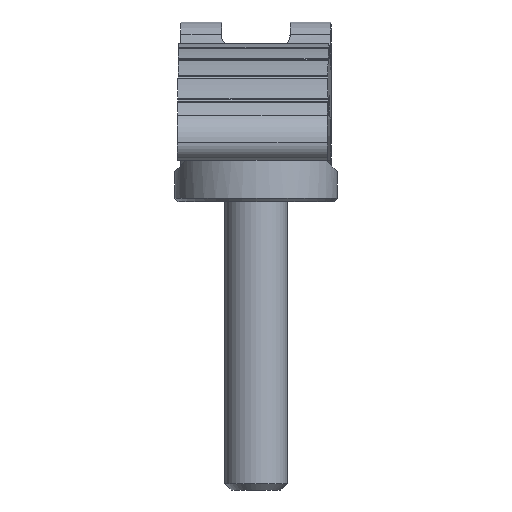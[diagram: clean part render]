
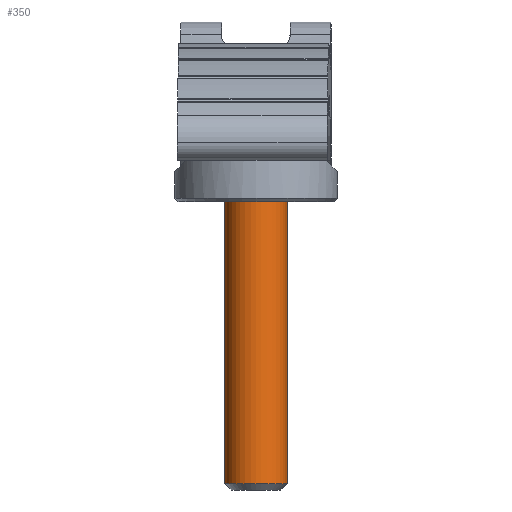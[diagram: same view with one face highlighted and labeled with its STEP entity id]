
A CAD part, left-side view. The second image highlights one B-rep face of the part: STEP entity #350.
In plain terms, the highlighted cylindrical face has radius 5 mm (diameter 10 mm), a full revolution.
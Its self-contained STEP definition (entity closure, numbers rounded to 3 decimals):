
#350=ADVANCED_FACE('',(#1155,#1157),#1159,.T.);
#1155=FACE_BOUND('',#1156,.T.);
#1156=EDGE_LOOP('',(#1581,#1582));
#1157=FACE_BOUND('',#1158,.T.);
#1158=EDGE_LOOP('',(#1583,#1584));
#1159=CYLINDRICAL_SURFACE('',#1160,5.);
#1160=AXIS2_PLACEMENT_3D('',#1161,#1162,#1163);
#1161=CARTESIAN_POINT('',(0.,0.,0.));
#1162=DIRECTION('',(-1.,0.,0.));
#1163=DIRECTION('',(0.,1.,0.));
#1581=ORIENTED_EDGE('',*,*,#1802,.T.);
#1582=ORIENTED_EDGE('',*,*,#1803,.T.);
#1583=ORIENTED_EDGE('',*,*,#1804,.T.);
#1584=ORIENTED_EDGE('',*,*,#1805,.T.);
#1802=EDGE_CURVE('',#2093,#2094,#2095,.T.);
#1803=EDGE_CURVE('',#2094,#2093,#2096,.T.);
#1804=EDGE_CURVE('',#2097,#2098,#2099,.T.);
#1805=EDGE_CURVE('',#2098,#2097,#2100,.T.);
#2093=VERTEX_POINT('',#4278);
#2094=VERTEX_POINT('',#4279);
#2095=CIRCLE('',#4280,5.);
#2096=CIRCLE('',#4284,5.);
#2097=VERTEX_POINT('',#4288);
#2098=VERTEX_POINT('',#4289);
#2099=CIRCLE('',#4290,5.);
#2100=CIRCLE('',#4294,5.);
#4278=CARTESIAN_POINT('',(-1.,5.,0.));
#4279=CARTESIAN_POINT('',(-1.,-5.,0.));
#4280=AXIS2_PLACEMENT_3D('',#4281,#4282,#4283);
#4281=CARTESIAN_POINT('',(-1.,0.,0.));
#4282=DIRECTION('',(-1.,0.,0.));
#4283=DIRECTION('',(0.,1.,0.));
#4284=AXIS2_PLACEMENT_3D('',#4285,#4286,#4287);
#4285=CARTESIAN_POINT('',(-1.,0.,0.));
#4286=DIRECTION('',(-1.,0.,0.));
#4287=DIRECTION('',(0.,-1.,0.));
#4288=CARTESIAN_POINT('',(-69.,5.,0.));
#4289=CARTESIAN_POINT('',(-69.,0.,5.));
#4290=AXIS2_PLACEMENT_3D('',#4291,#4292,#4293);
#4291=CARTESIAN_POINT('',(-69.,0.,0.));
#4292=DIRECTION('',(1.,0.,0.));
#4293=DIRECTION('',(0.,1.,0.));
#4294=AXIS2_PLACEMENT_3D('',#4295,#4296,#4297);
#4295=CARTESIAN_POINT('',(-69.,0.,0.));
#4296=DIRECTION('',(1.,0.,0.));
#4297=DIRECTION('',(0.,0.,1.));
